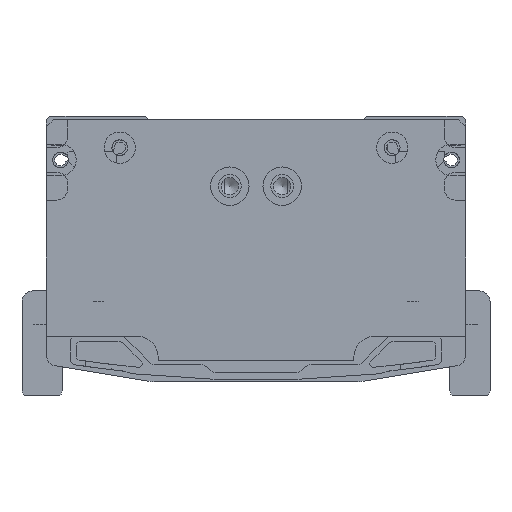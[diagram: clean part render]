
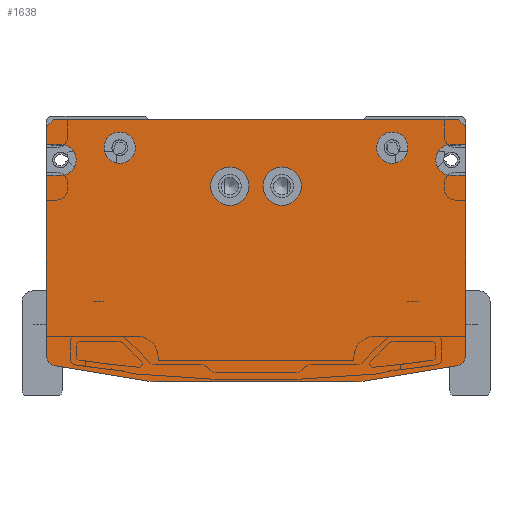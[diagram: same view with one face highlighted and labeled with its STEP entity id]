
A CAD part, front view. The second image highlights one B-rep face of the part: STEP entity #1638.
In plain terms, the highlighted planar face has unit normal (0, -1, 0).
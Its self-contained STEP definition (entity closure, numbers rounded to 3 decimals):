
#1638=ADVANCED_FACE('',(#2757,#2758,#2759,#2760,#2761),#2290,.F.);
#2290=PLANE('',#16370);
#2757=FACE_BOUND('',#3900,.T.);
#2758=FACE_BOUND('',#3901,.T.);
#2759=FACE_BOUND('',#3902,.T.);
#2760=FACE_BOUND('',#3903,.T.);
#2761=FACE_BOUND('',#3904,.T.);
#3900=EDGE_LOOP('',(#7672));
#3901=EDGE_LOOP('',(#7673));
#3902=EDGE_LOOP('',(#7674,#7675,#7676,#7677,#7678,#7679,#7680,#7681,#7682,
#7683,#7684,#7685,#7686,#7687,#7688,#7689,#7690,#7691,#7692,#7693));
#3903=EDGE_LOOP('',(#7694));
#3904=EDGE_LOOP('',(#7695));
#5048=CIRCLE('',#16271,5.5);
#5052=CIRCLE('',#16278,5.5);
#5055=CIRCLE('',#16284,4.5);
#5059=CIRCLE('',#16291,4.5);
#5066=CIRCLE('',#16309,4.5);
#5069=CIRCLE('',#16318,3.);
#5072=CIRCLE('',#16323,10.);
#5073=CIRCLE('',#16326,10.);
#5076=CIRCLE('',#16331,3.);
#5084=CIRCLE('',#16358,4.5);
#7672=ORIENTED_EDGE('',*,*,#12448,.T.);
#7673=ORIENTED_EDGE('',*,*,#12452,.T.);
#7674=ORIENTED_EDGE('',*,*,#12513,.T.);
#7675=ORIENTED_EDGE('',*,*,#12509,.F.);
#7676=ORIENTED_EDGE('',*,*,#12507,.F.);
#7677=ORIENTED_EDGE('',*,*,#12504,.F.);
#7678=ORIENTED_EDGE('',*,*,#12500,.T.);
#7679=ORIENTED_EDGE('',*,*,#12497,.T.);
#7680=ORIENTED_EDGE('',*,*,#12154,.F.);
#7681=ORIENTED_EDGE('',*,*,#12483,.T.);
#7682=ORIENTED_EDGE('',*,*,#12480,.T.);
#7683=ORIENTED_EDGE('',*,*,#12478,.F.);
#7684=ORIENTED_EDGE('',*,*,#12150,.F.);
#7685=ORIENTED_EDGE('',*,*,#12474,.T.);
#7686=ORIENTED_EDGE('',*,*,#12125,.F.);
#7687=ORIENTED_EDGE('',*,*,#12472,.T.);
#7688=ORIENTED_EDGE('',*,*,#11891,.F.);
#7689=ORIENTED_EDGE('',*,*,#12548,.T.);
#7690=ORIENTED_EDGE('',*,*,#12545,.T.);
#7691=ORIENTED_EDGE('',*,*,#12543,.F.);
#7692=ORIENTED_EDGE('',*,*,#11887,.F.);
#7693=ORIENTED_EDGE('',*,*,#12516,.T.);
#7694=ORIENTED_EDGE('',*,*,#12459,.F.);
#7695=ORIENTED_EDGE('',*,*,#12455,.F.);
#10238=VERTEX_POINT('',#23708);
#10239=VERTEX_POINT('',#23710);
#10242=VERTEX_POINT('',#23716);
#10243=VERTEX_POINT('',#23718);
#10360=VERTEX_POINT('',#24496);
#10361=VERTEX_POINT('',#24498);
#10376=VERTEX_POINT('',#24544);
#10377=VERTEX_POINT('',#24546);
#10380=VERTEX_POINT('',#24552);
#10381=VERTEX_POINT('',#24554);
#10580=VERTEX_POINT('',#25643);
#10584=VERTEX_POINT('',#25654);
#10587=VERTEX_POINT('',#25663);
#10590=VERTEX_POINT('',#25673);
#10598=VERTEX_POINT('',#25708);
#10600=VERTEX_POINT('',#25715);
#10611=VERTEX_POINT('',#25749);
#10613=VERTEX_POINT('',#25755);
#10616=VERTEX_POINT('',#25763);
#10618=VERTEX_POINT('',#25769);
#10619=VERTEX_POINT('',#25773);
#10622=VERTEX_POINT('',#25781);
#10634=VERTEX_POINT('',#25840);
#10636=VERTEX_POINT('',#25847);
#11887=EDGE_CURVE('',#10238,#10239,#13647,.T.);
#11891=EDGE_CURVE('',#10242,#10243,#13651,.T.);
#12125=EDGE_CURVE('',#10360,#10361,#13776,.T.);
#12150=EDGE_CURVE('',#10376,#10377,#13801,.T.);
#12154=EDGE_CURVE('',#10380,#10381,#13805,.T.);
#12448=EDGE_CURVE('',#10580,#10580,#5048,.T.);
#12452=EDGE_CURVE('',#10584,#10584,#5052,.T.);
#12455=EDGE_CURVE('',#10587,#10587,#5055,.T.);
#12459=EDGE_CURVE('',#10590,#10590,#5059,.T.);
#12472=EDGE_CURVE('',#10360,#10243,#13979,.T.);
#12474=EDGE_CURVE('',#10376,#10361,#13981,.T.);
#12478=EDGE_CURVE('',#10377,#10598,#13985,.T.);
#12480=EDGE_CURVE('',#10600,#10598,#5066,.T.);
#12483=EDGE_CURVE('',#10380,#10600,#13988,.T.);
#12497=EDGE_CURVE('',#10611,#10381,#5069,.T.);
#12500=EDGE_CURVE('',#10613,#10611,#14001,.T.);
#12504=EDGE_CURVE('',#10613,#10616,#5072,.T.);
#12507=EDGE_CURVE('',#10616,#10618,#14006,.T.);
#12509=EDGE_CURVE('',#10618,#10619,#5073,.T.);
#12513=EDGE_CURVE('',#10622,#10619,#14010,.T.);
#12516=EDGE_CURVE('',#10238,#10622,#5076,.T.);
#12543=EDGE_CURVE('',#10239,#10634,#14032,.T.);
#12545=EDGE_CURVE('',#10636,#10634,#5084,.T.);
#12548=EDGE_CURVE('',#10242,#10636,#14035,.T.);
#13647=LINE('',#23709,#14724);
#13651=LINE('',#23717,#14728);
#13776=LINE('',#24497,#14853);
#13801=LINE('',#24545,#14878);
#13805=LINE('',#24553,#14882);
#13979=LINE('',#25700,#15056);
#13981=LINE('',#25703,#15058);
#13985=LINE('',#25710,#15062);
#13988=LINE('',#25719,#15065);
#14001=LINE('',#25754,#15078);
#14006=LINE('',#25768,#15083);
#14010=LINE('',#25780,#15087);
#14032=LINE('',#25842,#15109);
#14035=LINE('',#25851,#15112);
#14724=VECTOR('',#18313,1.);
#14728=VECTOR('',#18317,1.);
#14853=VECTOR('',#18740,1.);
#14878=VECTOR('',#18779,1.);
#14882=VECTOR('',#18783,1.);
#15056=VECTOR('',#19543,1.);
#15058=VECTOR('',#19547,1.);
#15062=VECTOR('',#19553,1.);
#15065=VECTOR('',#19564,1.);
#15078=VECTOR('',#19597,1.);
#15083=VECTOR('',#19610,1.);
#15087=VECTOR('',#19622,1.);
#15109=VECTOR('',#19698,1.);
#15112=VECTOR('',#19709,1.);
#16271=AXIS2_PLACEMENT_3D('',#25642,#19468,#19469);
#16278=AXIS2_PLACEMENT_3D('',#25653,#19482,#19483);
#16284=AXIS2_PLACEMENT_3D('',#25662,#19494,#19495);
#16291=AXIS2_PLACEMENT_3D('',#25672,#19508,#19509);
#16309=AXIS2_PLACEMENT_3D('',#25714,#19558,#19559);
#16318=AXIS2_PLACEMENT_3D('',#25748,#19590,#19591);
#16323=AXIS2_PLACEMENT_3D('',#25762,#19604,#19605);
#16326=AXIS2_PLACEMENT_3D('',#25772,#19614,#19615);
#16331=AXIS2_PLACEMENT_3D('',#25785,#19628,#19629);
#16358=AXIS2_PLACEMENT_3D('',#25846,#19703,#19704);
#16370=AXIS2_PLACEMENT_3D('',#25868,#19734,#19735);
#18313=DIRECTION('',(0.,0.,1.));
#18317=DIRECTION('',(0.,0.,1.));
#18740=DIRECTION('',(1.,0.,0.));
#18779=DIRECTION('',(0.,0.,-1.));
#18783=DIRECTION('',(0.,0.,-1.));
#19468=DIRECTION('',(0.,1.,0.));
#19469=DIRECTION('',(1.,0.,0.));
#19482=DIRECTION('',(0.,1.,0.));
#19483=DIRECTION('',(1.,0.,0.));
#19494=DIRECTION('',(0.,-1.,0.));
#19495=DIRECTION('',(1.,0.,0.));
#19508=DIRECTION('',(0.,-1.,0.));
#19509=DIRECTION('',(1.,0.,0.));
#19543=DIRECTION('',(-0.707,0.,-0.707));
#19547=DIRECTION('',(-0.707,0.,0.707));
#19553=DIRECTION('',(-1.,0.,0.));
#19558=DIRECTION('',(0.,1.,0.));
#19559=DIRECTION('',(0.,0.,-1.));
#19564=DIRECTION('',(-1.,0.,0.));
#19590=DIRECTION('',(0.,-1.,0.));
#19591=DIRECTION('',(0.164,0.,-0.986));
#19597=DIRECTION('',(0.986,0.,0.164));
#19604=DIRECTION('',(0.,1.,0.));
#19605=DIRECTION('',(0.164,0.,-0.986));
#19610=DIRECTION('',(-1.,0.,0.));
#19614=DIRECTION('',(0.,1.,0.));
#19615=DIRECTION('',(0.,0.,-1.));
#19622=DIRECTION('',(0.986,0.,-0.164));
#19628=DIRECTION('',(0.,-1.,0.));
#19629=DIRECTION('',(-1.,0.,0.));
#19698=DIRECTION('',(1.,0.,0.));
#19703=DIRECTION('',(0.,1.,0.));
#19704=DIRECTION('',(0.,0.,1.));
#19709=DIRECTION('',(1.,0.,0.));
#19734=DIRECTION('',(0.,1.,0.));
#19735=DIRECTION('',(1.,0.,0.));
#23708=CARTESIAN_POINT('',(-60.,-1412.,-69.459));
#23709=CARTESIAN_POINT('',(-60.,-1412.,-69.459));
#23710=CARTESIAN_POINT('',(-60.,-1412.,-18.));
#23716=CARTESIAN_POINT('',(-60.,-1412.,-9.));
#23717=CARTESIAN_POINT('',(-60.,-1412.,-9.));
#23718=CARTESIAN_POINT('',(-60.,-1412.,-4.));
#24496=CARTESIAN_POINT('',(-58.,-1412.,-2.));
#24497=CARTESIAN_POINT('',(-58.,-1412.,-2.));
#24498=CARTESIAN_POINT('',(58.,-1412.,-2.));
#24544=CARTESIAN_POINT('',(60.,-1412.,-4.));
#24545=CARTESIAN_POINT('',(60.,-1412.,-4.));
#24546=CARTESIAN_POINT('',(60.,-1412.,-9.));
#24552=CARTESIAN_POINT('',(60.,-1412.,-18.));
#24553=CARTESIAN_POINT('',(60.,-1412.,-18.));
#24554=CARTESIAN_POINT('',(60.,-1412.,-69.459));
#25642=CARTESIAN_POINT('',(7.5,-1412.,-21.));
#25643=CARTESIAN_POINT('',(13.,-1412.,-21.));
#25653=CARTESIAN_POINT('',(-7.5,-1412.,-21.));
#25654=CARTESIAN_POINT('',(-2.,-1412.,-21.));
#25662=CARTESIAN_POINT('',(-39.,-1412.,-10.));
#25663=CARTESIAN_POINT('',(-34.5,-1412.,-10.));
#25672=CARTESIAN_POINT('',(39.,-1412.,-10.));
#25673=CARTESIAN_POINT('',(43.5,-1412.,-10.));
#25700=CARTESIAN_POINT('',(-58.,-1412.,-2.));
#25703=CARTESIAN_POINT('',(60.,-1412.,-4.));
#25708=CARTESIAN_POINT('',(56.,-1412.,-9.));
#25710=CARTESIAN_POINT('',(60.,-1412.,-9.));
#25714=CARTESIAN_POINT('',(56.,-1412.,-13.5));
#25715=CARTESIAN_POINT('',(56.,-1412.,-18.));
#25719=CARTESIAN_POINT('',(60.,-1412.,-18.));
#25748=CARTESIAN_POINT('',(57.,-1412.,-69.459));
#25749=CARTESIAN_POINT('',(57.493,-1412.,-72.418));
#25754=CARTESIAN_POINT('',(30.816,-1412.,-76.864));
#25755=CARTESIAN_POINT('',(30.816,-1412.,-76.864));
#25762=CARTESIAN_POINT('',(29.172,-1412.,-67.));
#25763=CARTESIAN_POINT('',(29.172,-1412.,-77.));
#25768=CARTESIAN_POINT('',(29.172,-1412.,-77.));
#25769=CARTESIAN_POINT('',(-29.172,-1412.,-77.));
#25772=CARTESIAN_POINT('',(-29.172,-1412.,-67.));
#25773=CARTESIAN_POINT('',(-30.816,-1412.,-76.864));
#25780=CARTESIAN_POINT('',(-57.493,-1412.,-72.418));
#25781=CARTESIAN_POINT('',(-57.493,-1412.,-72.418));
#25785=CARTESIAN_POINT('',(-57.,-1412.,-69.459));
#25840=CARTESIAN_POINT('',(-56.,-1412.,-18.));
#25842=CARTESIAN_POINT('',(-60.,-1412.,-18.));
#25846=CARTESIAN_POINT('',(-56.,-1412.,-13.5));
#25847=CARTESIAN_POINT('',(-56.,-1412.,-9.));
#25851=CARTESIAN_POINT('',(-60.,-1412.,-9.));
#25868=CARTESIAN_POINT('',(0.,-1412.,-2.));
